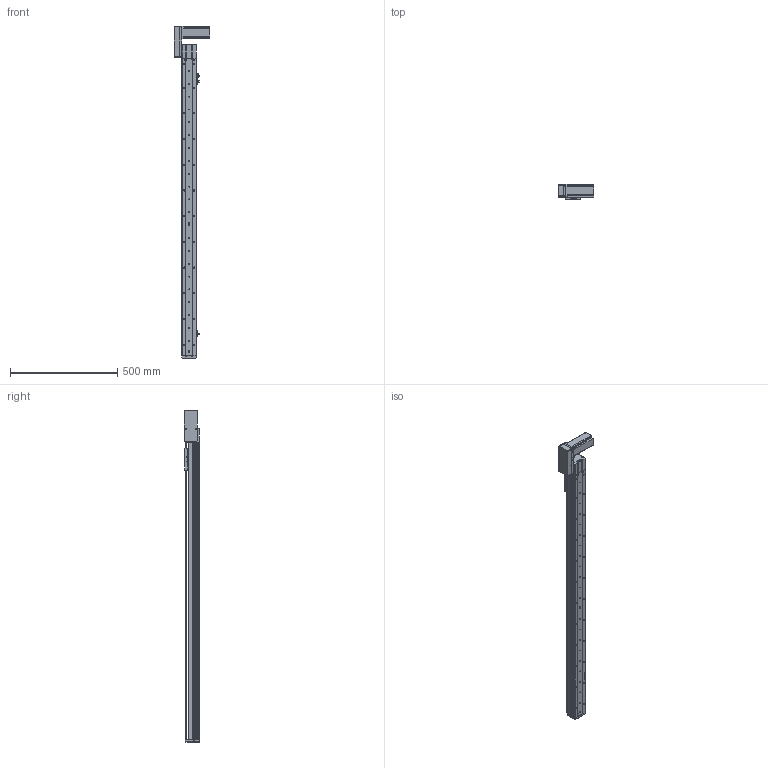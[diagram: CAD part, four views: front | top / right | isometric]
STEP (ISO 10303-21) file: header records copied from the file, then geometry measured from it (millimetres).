
FILE_DESCRIPTION (( 'STEP AP214' ), '1' );
FILE_NAME ('KSD68BS-S1200-MRB-CM.STEP', '2019-08-22T06:14:49', ( '微软用户' ), ( '微软中国' ), 'SwSTEP 2.0', 'SolidWorks 2014', '' );
FILE_SCHEMA (( 'AUTOMOTIVE_DESIGN' ));
Length unit declared in the file: millimetre
Products named in the file (11): 悵誘欶奻狟殏; 68宽马达安装板连板上折同步带; 68宽单导轨半封闭同步带主动轮座右; 68单导轨同步带半封闭端板; KSD68BS 1200俴最裔啣圉猾敕; 覜茼え68遵圉猾敕; KSD68BS半封闭同步带传动导轨座; U倰嫖萇EEㄜSX672; 台达ECMA－C20604AS伺服电机（400W); KSD68BS 1200俴最菁啣圉猾敕; KSD68BS-S1200-MRB-CM
Assembly tree (12 placements, depth 2):
  KSD68BS-S1200-MRB-CM
    KSD68BS 1200俴最菁啣圉猾敕
    台达ECMA－C20604AS伺服电机（400W)
    U倰嫖萇EEㄜSX672  x3
    KSD68BS半封闭同步带传动导轨座
    覜茼え68遵圉猾敕
    KSD68BS 1200俴最裔啣圉猾敕
    68单导轨同步带半封闭端板
    68宽单导轨半封闭同步带主动轮座右
    68宽马达安装板连板上折同步带
    悵誘欶奻狟殏
Bounding box: 167.2 x 70.5 x 1549.5 mm (x, y, z)
Volume: 2623076.8 mm3; surface area: 944631.9 mm2
Topology: 13 solids, 13 shells, 1472 faces, 4268 edges, 2778 vertices
Faces by surface type: cylinder 754, plane 635, cone 83
Entity records: 55713 total; most frequent: CARTESIAN_POINT 10918, ORIENTED_EDGE 7288, DIRECTION 7126, EDGE_CURVE 3644, AXIS2_PLACEMENT_3D 2562, VERTEX_POINT 2402, LINE 2002, VECTOR 2002
